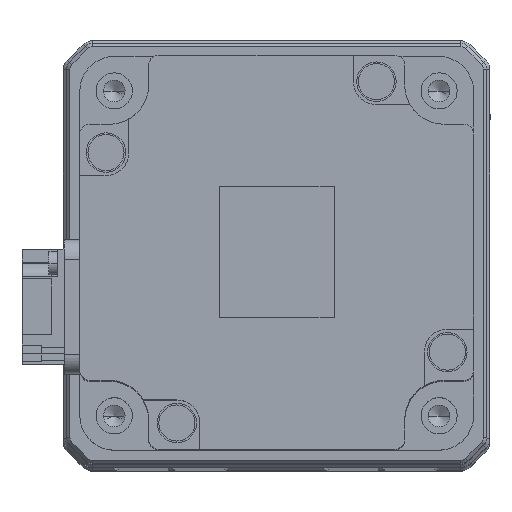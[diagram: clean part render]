
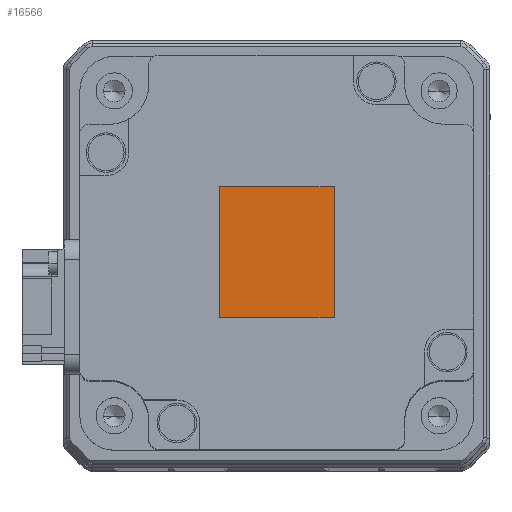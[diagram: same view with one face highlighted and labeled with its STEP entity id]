
A CAD part, top view. The second image highlights one B-rep face of the part: STEP entity #16566.
In plain terms, the highlighted planar face has unit normal (0, 0, 1) as drawn and (0, 0, -1) by its records, which use the part's own axes.
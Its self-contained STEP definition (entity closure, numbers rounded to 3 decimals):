
#2133 = LINE ( 'NONE', #20405, #21118 ) ;
#2437 = DIRECTION ( 'NONE',  ( 0., -1., 0. ) ) ;
#4112 = AXIS2_PLACEMENT_3D ( 'NONE', #32804, #9611, #27694 ) ;
#4382 = EDGE_CURVE ( 'NONE', #7370, #14916, #12437, .T. ) ;
#6219 = CARTESIAN_POINT ( 'NONE',  ( 10., -8.75, -98.6 ) ) ;
#6335 = DIRECTION ( 'NONE',  ( -1., 0., 0. ) ) ;
#6688 = ORIENTED_EDGE ( 'NONE', *, *, #4382, .T. ) ;
#7370 = VERTEX_POINT ( 'NONE', #26822 ) ;
#9204 = VECTOR ( 'NONE', #9598, 1000. ) ;
#9598 = DIRECTION ( 'NONE',  ( 1., 0., 0. ) ) ;
#9611 = DIRECTION ( 'NONE',  ( 0., 0., -1. ) ) ;
#10046 = LINE ( 'NONE', #14712, #9204 ) ;
#10551 = ORIENTED_EDGE ( 'NONE', *, *, #14846, .T. ) ;
#11325 = CARTESIAN_POINT ( 'NONE',  ( -10., 8.75, -98.6 ) ) ;
#11744 = EDGE_LOOP ( 'NONE', ( #10551, #24030, #18435, #6688 ) ) ;
#12437 = LINE ( 'NONE', #6219, #25385 ) ;
#12461 = VERTEX_POINT ( 'NONE', #11325 ) ;
#14712 = CARTESIAN_POINT ( 'NONE',  ( 10., 8.75, -98.6 ) ) ;
#14846 = EDGE_CURVE ( 'NONE', #14916, #12461, #17346, .T. ) ;
#14916 = VERTEX_POINT ( 'NONE', #31221 ) ;
#16566 = ADVANCED_FACE ( 'NONE', ( #26479 ), #17345, .T. ) ;
#17345 = PLANE ( 'NONE',  #4112 ) ;
#17346 = LINE ( 'NONE', #28360, #30257 ) ;
#17798 = EDGE_CURVE ( 'NONE', #23974, #7370, #2133, .T. ) ;
#18435 = ORIENTED_EDGE ( 'NONE', *, *, #17798, .T. ) ;
#20405 = CARTESIAN_POINT ( 'NONE',  ( 10., 8.75, -98.6 ) ) ;
#21118 = VECTOR ( 'NONE', #2437, 1000. ) ;
#22549 = CARTESIAN_POINT ( 'NONE',  ( 10., 8.75, -98.6 ) ) ;
#23974 = VERTEX_POINT ( 'NONE', #22549 ) ;
#24030 = ORIENTED_EDGE ( 'NONE', *, *, #31143, .T. ) ;
#25385 = VECTOR ( 'NONE', #6335, 1000. ) ;
#25793 = DIRECTION ( 'NONE',  ( 0., 1., 0. ) ) ;
#26479 = FACE_OUTER_BOUND ( 'NONE', #11744, .T. ) ;
#26822 = CARTESIAN_POINT ( 'NONE',  ( 10., -8.75, -98.6 ) ) ;
#27694 = DIRECTION ( 'NONE',  ( -1., 0., 0. ) ) ;
#28360 = CARTESIAN_POINT ( 'NONE',  ( -10., 8.75, -98.6 ) ) ;
#30257 = VECTOR ( 'NONE', #25793, 1000. ) ;
#31143 = EDGE_CURVE ( 'NONE', #12461, #23974, #10046, .T. ) ;
#31221 = CARTESIAN_POINT ( 'NONE',  ( -10., -8.75, -98.6 ) ) ;
#32804 = CARTESIAN_POINT ( 'NONE',  ( 10., -8.75, -98.6 ) ) ;
